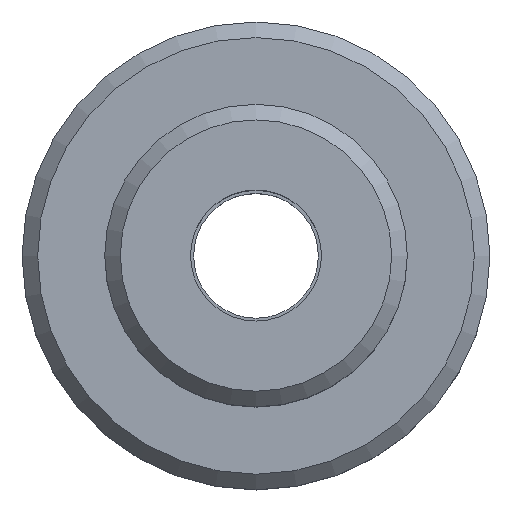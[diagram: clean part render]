
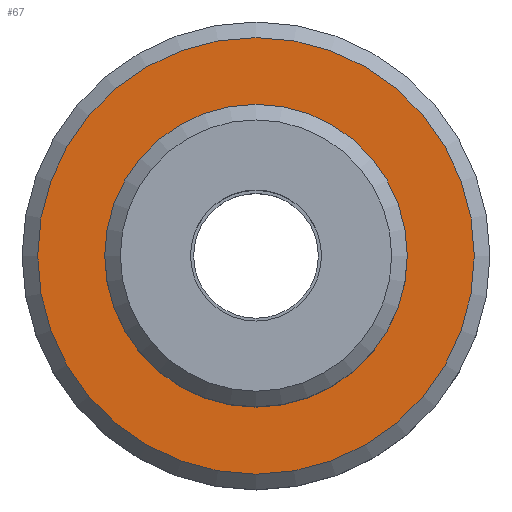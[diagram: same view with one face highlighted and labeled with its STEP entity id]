
A CAD part, top view. The second image highlights one B-rep face of the part: STEP entity #67.
In plain terms, the highlighted planar face has unit normal (0, 0, 1).
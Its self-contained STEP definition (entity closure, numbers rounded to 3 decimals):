
#67=ADVANCED_FACE('',(#136,#137),#138,.F.);
#136=FACE_OUTER_BOUND('',#228,.T.);
#137=FACE_BOUND('',#229,.T.);
#138=PLANE('',#230);
#228=EDGE_LOOP('',(#320));
#229=EDGE_LOOP('',(#321));
#230=AXIS2_PLACEMENT_3D('',#322,#323,#324);
#320=ORIENTED_EDGE('',*,*,#436,.T.);
#321=ORIENTED_EDGE('',*,*,#437,.T.);
#322=CARTESIAN_POINT('',(0.,-4.865,-6.0));
#323=DIRECTION('',(0.0,0.0,-1.0));
#324=DIRECTION('',(0.0,-1.0,0.0));
#436=EDGE_CURVE('',#483,#483,#484,.T.);
#437=EDGE_CURVE('',#485,#485,#486,.T.);
#483=VERTEX_POINT('',#547);
#484=CIRCLE('',#548,7.0);
#485=VERTEX_POINT('',#549);
#486=CIRCLE('',#550,4.85);
#547=CARTESIAN_POINT('',(-7.0,0.0,-6.0));
#548=AXIS2_PLACEMENT_3D('',#611,#612,#613);
#549=CARTESIAN_POINT('',(-4.85,0.0,-6.0));
#550=AXIS2_PLACEMENT_3D('',#614,#615,#616);
#611=CARTESIAN_POINT('',(0.0,0.0,-6.0));
#612=DIRECTION('',(0.0,0.0,1.0));
#613=DIRECTION('',(-1.0,0.0,0.0));
#614=CARTESIAN_POINT('',(0.0,0.0,-6.0));
#615=DIRECTION('',(0.0,0.0,-1.0));
#616=DIRECTION('',(-1.0,0.0,0.0));
